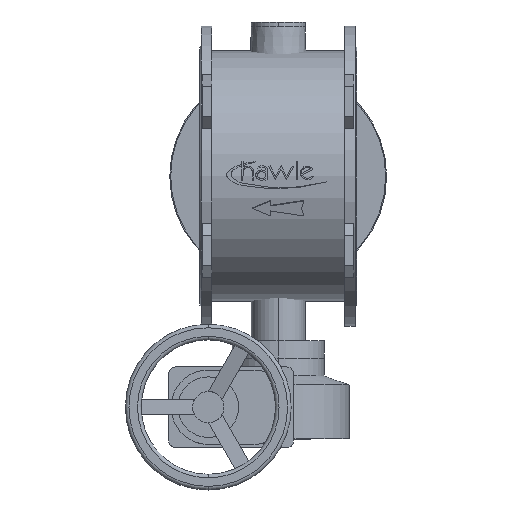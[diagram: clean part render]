
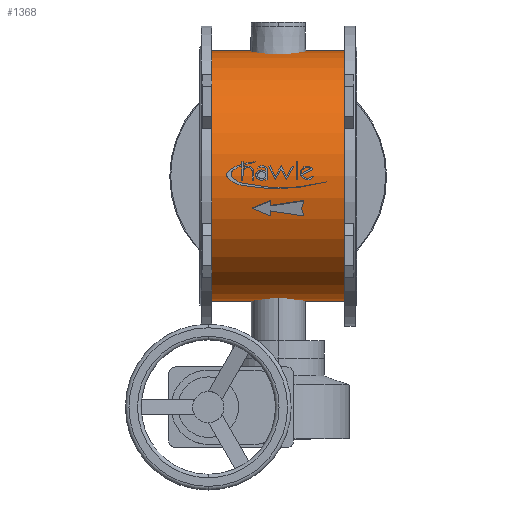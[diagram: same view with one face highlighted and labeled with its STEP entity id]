
A CAD part, top view. The second image highlights one B-rep face of the part: STEP entity #1368.
In plain terms, the highlighted cylindrical face has radius 279.5 mm (diameter 559 mm), a partial arc.
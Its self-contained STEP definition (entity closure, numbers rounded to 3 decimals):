
#1368=ADVANCED_FACE('',(#2778),#2779,.T.);
#2778=FACE_OUTER_BOUND('',#4606,.T.);
#2779=CYLINDRICAL_SURFACE('',#4607,279.5);
#4606=EDGE_LOOP('',(#7060,#7061,#7062,#7063));
#4607=AXIS2_PLACEMENT_3D('',#7064,#7065,#7066);
#7060=ORIENTED_EDGE('',*,*,#10360,.T.);
#7061=ORIENTED_EDGE('',*,*,#10361,.T.);
#7062=ORIENTED_EDGE('',*,*,#10362,.T.);
#7063=ORIENTED_EDGE('',*,*,#10207,.T.);
#7064=CARTESIAN_POINT('',(-323.5,0.,0.0));
#7065=DIRECTION('',(1.0,0.,0.0));
#7066=DIRECTION('',(0.,-1.0,0.0));
#10207=EDGE_CURVE('',#12222,#12221,#12224,.T.);
#10360=EDGE_CURVE('',#12221,#12451,#12452,.T.);
#10361=EDGE_CURVE('',#12451,#12453,#12454,.T.);
#10362=EDGE_CURVE('',#12453,#12222,#12455,.T.);
#12221=VERTEX_POINT('',#14777);
#12222=VERTEX_POINT('',#14778);
#12224=CIRCLE('',#14780,279.5);
#12451=VERTEX_POINT('',#15065);
#12452=LINE('',#15066,#15067);
#12453=VERTEX_POINT('',#15068);
#12454=CIRCLE('',#15069,279.5);
#12455=LINE('',#15070,#15071);
#14777=CARTESIAN_POINT('',(-323.5,-279.5,0.0));
#14778=CARTESIAN_POINT('',(-323.5,279.5,0.));
#14780=AXIS2_PLACEMENT_3D('',#17138,#17139,#17140);
#15065=CARTESIAN_POINT('',(-26.5,-279.5,0.0));
#15066=CARTESIAN_POINT('',(-323.5,-279.5,0.));
#15067=VECTOR('',#17373,1.0);
#15068=CARTESIAN_POINT('',(-26.5,279.5,0.));
#15069=AXIS2_PLACEMENT_3D('',#17374,#17375,#17376);
#15070=CARTESIAN_POINT('',(-323.5,279.5,0.));
#15071=VECTOR('',#17377,1.0);
#17138=CARTESIAN_POINT('',(-323.5,0.,0.0));
#17139=DIRECTION('',(1.0,0.,0.0));
#17140=DIRECTION('',(0.,-1.0,0.0));
#17373=DIRECTION('',(1.0,0.,0.0));
#17374=CARTESIAN_POINT('',(-26.5,0.,0.0));
#17375=DIRECTION('',(-1.0,0.,0.0));
#17376=DIRECTION('',(0.,-1.0,0.0));
#17377=DIRECTION('',(-1.0,0.,-0.0));
